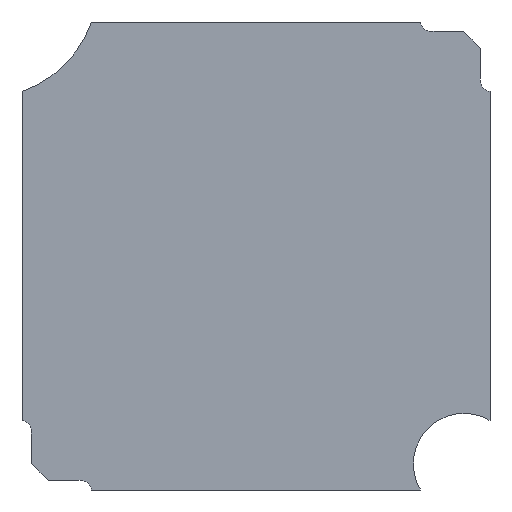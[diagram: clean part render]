
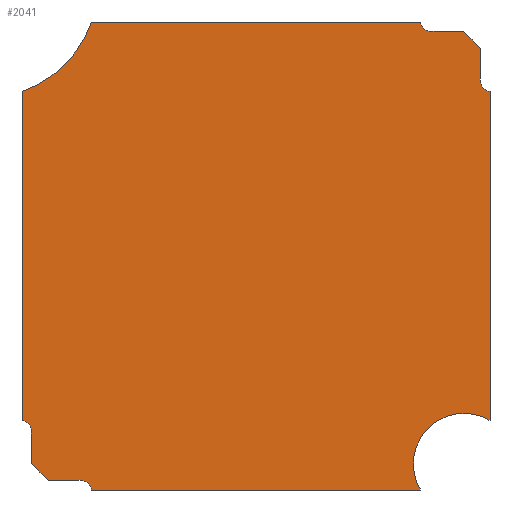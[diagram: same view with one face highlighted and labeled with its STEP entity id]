
A CAD part, front view. The second image highlights one B-rep face of the part: STEP entity #2041.
In plain terms, the highlighted planar face has unit normal (0, -1, 0).
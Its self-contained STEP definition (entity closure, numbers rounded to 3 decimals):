
#50=DIRECTION('',(0.,0.,-1.));
#51=VECTOR('',#50,0.942);
#52=CARTESIAN_POINT('',(6.475,0.,5.989));
#53=LINE('',#52,#51);
#54=DIRECTION('',(1.,0.,0.));
#55=VECTOR('',#54,0.942);
#56=CARTESIAN_POINT('',(-5.989,0.,-6.475));
#57=LINE('',#56,#55);
#58=DIRECTION('',(0.707,0.,-0.707));
#59=VECTOR('',#58,0.689);
#60=CARTESIAN_POINT('',(-6.476,0.,-5.988));
#61=LINE('',#60,#59);
#62=DIRECTION('',(0.,0.,-1.));
#63=VECTOR('',#62,0.941);
#64=CARTESIAN_POINT('',(-6.476,0.,-5.047));
#65=LINE('',#64,#63);
#66=CARTESIAN_POINT('',(-7.79,0.,7.79));
#67=DIRECTION('',(0.,1.,0.));
#68=DIRECTION('',(0.946,0.,-0.323));
#69=AXIS2_PLACEMENT_3D('',#66,#67,#68);
#71=DIRECTION('',(1.,0.,0.));
#72=VECTOR('',#71,0.941);
#73=CARTESIAN_POINT('',(5.047,0.,6.476));
#74=LINE('',#73,#72);
#75=DIRECTION('',(0.707,0.,-0.707));
#76=VECTOR('',#75,0.689);
#77=CARTESIAN_POINT('',(5.988,0.,6.476));
#78=LINE('',#77,#76);
#87=CARTESIAN_POINT('',(6.775,0.,5.047));
#88=DIRECTION('',(0.,1.,0.));
#89=DIRECTION('',(-0.083,0.,-0.997));
#90=AXIS2_PLACEMENT_3D('',#87,#88,#89);
#109=DIRECTION('',(0.,0.,1.));
#110=VECTOR('',#109,9.495);
#111=CARTESIAN_POINT('',(6.75,0.,-4.747));
#112=LINE('',#111,#110);
#930=CARTESIAN_POINT('',(5.047,0.,6.776));
#931=DIRECTION('',(0.,1.,0.));
#932=DIRECTION('',(0.,0.,-1.));
#933=AXIS2_PLACEMENT_3D('',#930,#931,#932);
#944=DIRECTION('',(-1.,0.,0.));
#945=VECTOR('',#944,9.496);
#946=CARTESIAN_POINT('',(4.748,0.,6.75));
#947=LINE('',#946,#945);
#968=DIRECTION('',(0.,0.,-1.));
#969=VECTOR('',#968,9.496);
#970=CARTESIAN_POINT('',(-6.75,0.,4.748));
#971=LINE('',#970,#969);
#977=CARTESIAN_POINT('',(-6.776,0.,-5.047));
#978=DIRECTION('',(0.,1.,0.));
#979=DIRECTION('',(0.087,0.,0.996));
#980=AXIS2_PLACEMENT_3D('',#977,#978,#979);
#1003=CARTESIAN_POINT('',(-5.047,0.,-6.775));
#1004=DIRECTION('',(0.,1.,0.));
#1005=DIRECTION('',(0.,0.,1.));
#1006=AXIS2_PLACEMENT_3D('',#1003,#1004,#1005);
#1012=DIRECTION('',(1.,0.,0.));
#1013=VECTOR('',#1012,9.495);
#1014=CARTESIAN_POINT('',(-4.748,0.,-6.75));
#1015=LINE('',#1014,#1013);
#1029=CARTESIAN_POINT('',(6.,0.,-6.));
#1030=DIRECTION('',(0.,1.,0.));
#1031=DIRECTION('',(-0.858,0.,-0.514));
#1032=AXIS2_PLACEMENT_3D('',#1029,#1030,#1031);
#1550=CARTESIAN_POINT('',(-4.748,0.,6.75));
#1551=CARTESIAN_POINT('',(-6.75,0.,4.748));
#1552=VERTEX_POINT('',#1550);
#1553=VERTEX_POINT('',#1551);
#1558=CARTESIAN_POINT('',(4.747,0.,-6.75));
#1560=VERTEX_POINT('',#1558);
#1562=CARTESIAN_POINT('',(6.75,0.,-4.747));
#1564=VERTEX_POINT('',#1562);
#1711=CARTESIAN_POINT('',(-4.748,0.,-6.75));
#1713=VERTEX_POINT('',#1711);
#1715=CARTESIAN_POINT('',(-5.047,0.,-6.475));
#1717=VERTEX_POINT('',#1715);
#1719=CARTESIAN_POINT('',(-6.476,0.,-5.047));
#1721=VERTEX_POINT('',#1719);
#1723=CARTESIAN_POINT('',(-6.75,0.,-4.748));
#1725=VERTEX_POINT('',#1723);
#1726=CARTESIAN_POINT('',(-6.476,0.,-5.988));
#1727=CARTESIAN_POINT('',(-5.989,0.,-6.475));
#1728=VERTEX_POINT('',#1726);
#1729=VERTEX_POINT('',#1727);
#1734=CARTESIAN_POINT('',(5.988,0.,6.476));
#1735=CARTESIAN_POINT('',(6.475,0.,5.989));
#1736=VERTEX_POINT('',#1734);
#1737=VERTEX_POINT('',#1735);
#1742=CARTESIAN_POINT('',(5.047,0.,6.476));
#1744=VERTEX_POINT('',#1742);
#1746=CARTESIAN_POINT('',(4.748,0.,6.75));
#1748=VERTEX_POINT('',#1746);
#1750=CARTESIAN_POINT('',(6.75,0.,4.748));
#1752=VERTEX_POINT('',#1750);
#1754=CARTESIAN_POINT('',(6.475,0.,5.047));
#1756=VERTEX_POINT('',#1754);
#2002=CARTESIAN_POINT('',(0.,0.,0.));
#2003=DIRECTION('',(0.,1.,0.));
#2004=DIRECTION('',(1.,0.,0.));
#2005=AXIS2_PLACEMENT_3D('',#2002,#2003,#2004);
#2006=PLANE('',#2005);
#2008=ORIENTED_EDGE('',*,*,#2007,.T.);
#2010=ORIENTED_EDGE('',*,*,#2009,.F.);
#2012=ORIENTED_EDGE('',*,*,#2011,.F.);
#2014=ORIENTED_EDGE('',*,*,#2013,.F.);
#2016=ORIENTED_EDGE('',*,*,#2015,.F.);
#2018=ORIENTED_EDGE('',*,*,#2017,.F.);
#2020=ORIENTED_EDGE('',*,*,#2019,.F.);
#2022=ORIENTED_EDGE('',*,*,#2021,.F.);
#2024=ORIENTED_EDGE('',*,*,#2023,.F.);
#2026=ORIENTED_EDGE('',*,*,#2025,.F.);
#2028=ORIENTED_EDGE('',*,*,#2027,.F.);
#2030=ORIENTED_EDGE('',*,*,#2029,.F.);
#2032=ORIENTED_EDGE('',*,*,#2031,.F.);
#2034=ORIENTED_EDGE('',*,*,#2033,.F.);
#2036=ORIENTED_EDGE('',*,*,#2035,.T.);
#2038=ORIENTED_EDGE('',*,*,#2037,.T.);
#2039=EDGE_LOOP('',(#2008,#2010,#2012,#2014,#2016,#2018,#2020,#2022,#2024,#2026,
#2028,#2030,#2032,#2034,#2036,#2038));
#2040=FACE_OUTER_BOUND('',#2039,.F.);
#70=CIRCLE('',#69,3.215);
#91=CIRCLE('',#90,0.3);
#934=CIRCLE('',#933,0.3);
#981=CIRCLE('',#980,0.3);
#1007=CIRCLE('',#1006,0.3);
#1033=CIRCLE('',#1032,1.46);
#2007=EDGE_CURVE('',#1737,#1756,#53,.T.);
#2009=EDGE_CURVE('',#1752,#1756,#91,.T.);
#2011=EDGE_CURVE('',#1564,#1752,#112,.T.);
#2013=EDGE_CURVE('',#1560,#1564,#1033,.T.);
#2015=EDGE_CURVE('',#1713,#1560,#1015,.T.);
#2017=EDGE_CURVE('',#1717,#1713,#1007,.T.);
#2019=EDGE_CURVE('',#1729,#1717,#57,.T.);
#2021=EDGE_CURVE('',#1728,#1729,#61,.T.);
#2023=EDGE_CURVE('',#1721,#1728,#65,.T.);
#2025=EDGE_CURVE('',#1725,#1721,#981,.T.);
#2027=EDGE_CURVE('',#1553,#1725,#971,.T.);
#2029=EDGE_CURVE('',#1552,#1553,#70,.T.);
#2031=EDGE_CURVE('',#1748,#1552,#947,.T.);
#2033=EDGE_CURVE('',#1744,#1748,#934,.T.);
#2035=EDGE_CURVE('',#1744,#1736,#74,.T.);
#2037=EDGE_CURVE('',#1736,#1737,#78,.T.);
#2041=ADVANCED_FACE('',(#2040),#2006,.F.);
